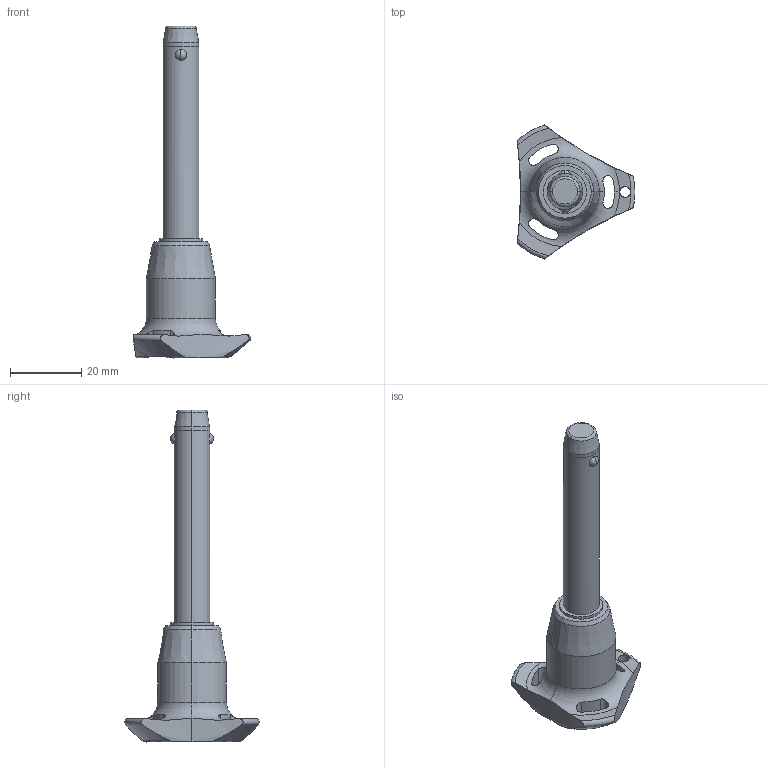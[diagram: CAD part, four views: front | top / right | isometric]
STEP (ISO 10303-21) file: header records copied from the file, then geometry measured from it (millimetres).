
FILE_DESCRIPTION (( 'STEP AP203' ), '1' );
FILE_NAME ('QR1726.M10-050-T.step', '2025-11-13T11:10:30', ( '' ), ( '' ), 'SwSTEP 2.0', 'SolidWorks 2019', '' );
FILE_SCHEMA (( 'CONFIG_CONTROL_DESIGN' ));
Length unit declared in the file: millimetre
Products named in the file (1): QR1726.M10-050-T
Bounding box: 33 x 37.51 x 92.9 mm (x, y, z)
Volume: 15006.6 mm3; surface area: 5735.4 mm2
Topology: 1 solids, 1 shells, 68 faces, 180 edges, 113 vertices
Faces by surface type: cylinder 32, cone 14, torus 11, sphere 6, plane 5
Entity records: 2838 total; most frequent: CARTESIAN_POINT 1098, ORIENTED_EDGE 360, DIRECTION 347, EDGE_CURVE 180, AXIS2_PLACEMENT_3D 154, VERTEX_POINT 113, CIRCLE 85, EDGE_LOOP 75
